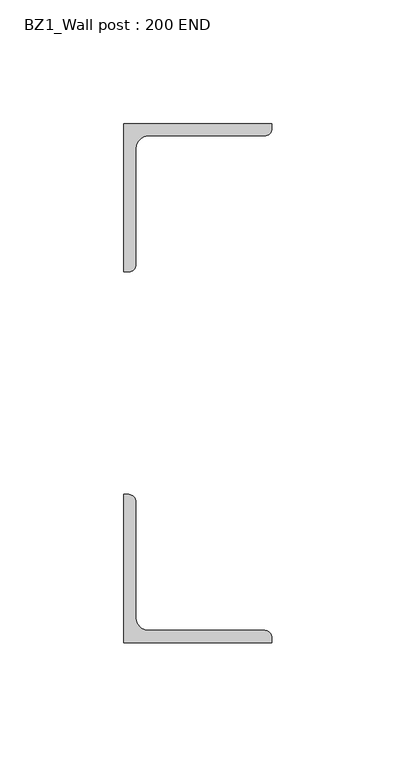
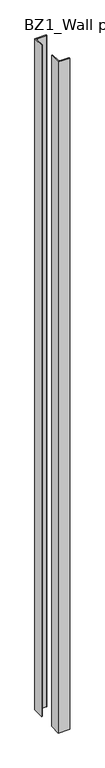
"""IFC4 building model written with IfcOpenShell, lengths in millimetres: beam geometry, BZ1_Wall post : 200 END."""

import ifcopenshell
import ifcopenshell.guid

model = None  # the IFC model being written
_history = None  # IfcOwnerHistory: only IFC2X3 demands one
_inside = {}  # id of a spatial element -> (the spatial element, [elements in it])
_under = {}  # id of a project, library or spatial element -> (it, [spatial elements below it])
_declared = {}  # id of a project -> (the project, [libraries it declares])
_typed = {}  # id of a type object -> (the type object, [elements of that type])
_made_of = {}  # id of a material, layer set ... -> (it, [elements and type objects made of it])


def new_model(schema):
    """Start an empty IFC model of exactly this schema.

    Asked for "IFC4X3", IfcOpenShell would pick the latest addendum, in which some entities
    have other attributes; the version numbers below select the first issue.
    IFC2X3 requires an IfcOwnerHistory on every rooted entity: one is made here for all.
    """
    global model, _history
    if schema == "IFC4X3":
        model = ifcopenshell.file(schema_version=(4, 3, 0, 0))
    else:
        model = ifcopenshell.file(schema=schema)
    _inside.clear()
    _under.clear()
    _declared.clear()
    _typed.clear()
    _made_of.clear()
    _history = None
    if model.schema == "IFC2X3":
        org = make("IfcOrganization", Name="unknown")
        user = make(
            "IfcPersonAndOrganization",
            ThePerson=make("IfcPerson", FamilyName="unknown"),
            TheOrganization=org,
        )
        app = make(
            "IfcApplication",
            ApplicationDeveloper=org,
            Version="unknown",
            ApplicationFullName="unknown",
            ApplicationIdentifier="unknown",
        )
        _history = make(
            "IfcOwnerHistory",
            OwningUser=user,
            OwningApplication=app,
            ChangeAction="ADDED",
            CreationDate=0,
        )
    return model


def make(cls, **values):
    """One entity of the class cls with the attributes given. An attribute that is None is left unset."""
    return model.create_entity(
        cls, **{name: value for name, value in values.items() if value is not None}
    )


def rooted(cls, **values):
    """An entity with a GlobalId (a new one), such as an element, a storey or a relation."""
    return make(cls, GlobalId=ifcopenshell.guid.new(), OwnerHistory=_history, **values)


def si_unit(unit_type, name, prefix=None):
    """IfcSIUnit, for example si_unit("LENGTHUNIT", "METRE", prefix="MILLI")."""
    return make("IfcSIUnit", UnitType=unit_type, Prefix=prefix, Name=name)


def assignment(units):
    """IfcUnitAssignment: the units of a project."""
    return None if units is None else make("IfcUnitAssignment", Units=units)


def point(xyz):
    """IfcCartesianPoint."""
    return None if xyz is None else make("IfcCartesianPoint", Coordinates=xyz)


def direction(xyz):
    """IfcDirection."""
    return None if xyz is None else make("IfcDirection", DirectionRatios=xyz)


def frame(location, z_axis=None, x_axis=None):
    """IfcAxis2Placement3D, a coordinate frame: its origin and axes. An axis left out is left unset."""
    return make(
        "IfcAxis2Placement3D",
        Location=point(location),
        Axis=direction(z_axis),
        RefDirection=direction(x_axis),
    )


def frame_2d(location, x_axis=None):
    """IfcAxis2Placement2D, a coordinate frame in the plane: its origin and x axis."""
    return make(
        "IfcAxis2Placement2D", Location=point(location), RefDirection=direction(x_axis)
    )


def origin():
    """The frame at (0, 0, 0) with its axes left unset."""
    return frame((0.0, 0.0, 0.0))


def origin_with_axes():
    """The frame at (0, 0, 0) with the z axis (0, 0, 1) and the x axis (1, 0, 0) written out."""
    return frame((0.0, 0.0, 0.0), z_axis=(0.0, 0.0, 1.0), x_axis=(1.0, 0.0, 0.0))


def place(relative_to, where):
    """IfcLocalPlacement: puts the frame where relative to a parent placement (None: the world)."""
    return make(
        "IfcLocalPlacement", PlacementRelTo=relative_to, RelativePlacement=where
    )


def context(
    kind, dimensions, precision=None, world=None, true_north=None, identifier=None
):
    """IfcGeometricRepresentationContext, for example the 3D "Model" context."""
    return make(
        "IfcGeometricRepresentationContext",
        ContextIdentifier=identifier,
        ContextType=kind,
        CoordinateSpaceDimension=dimensions,
        Precision=precision,
        WorldCoordinateSystem=world,
        TrueNorth=true_north,
    )


def project(units=None, contexts=None):
    """IfcProject with its units and contexts."""
    return rooted(
        "IfcProject",
        Name="project",
        RepresentationContexts=contexts,
        UnitsInContext=assignment(units),
    )


def spatial(cls, under=None, at=None, **own):
    """A site, building, storey or space (cls), placed at a placement, below another one or the project."""
    s = rooted(cls, ObjectPlacement=at, **own)
    if under is not None:
        _under.setdefault(under.id(), (under, []))[1].append(s)
    return s


def polyline(points):
    """IfcPolyline through the points."""
    return make("IfcPolyline", Points=[point(p) for p in points])


def circle_curve(where, radius):
    """IfcCircle in the frame where."""
    return make("IfcCircle", Position=where, Radius=radius)


def trimmed(basis, trim1, trim2, sense, master):
    """IfcTrimmedCurve: the piece of a basis curve between two trims."""
    return make(
        "IfcTrimmedCurve",
        BasisCurve=basis,
        Trim1=trim1,
        Trim2=trim2,
        SenseAgreement=sense,
        MasterRepresentation=master,
    )


def segment(curve, same_sense, transition):
    """IfcCompositeCurveSegment."""
    return make(
        "IfcCompositeCurveSegment",
        Transition=transition,
        SameSense=same_sense,
        ParentCurve=curve,
    )


def composite_curve(segments, self_intersect=None):
    """IfcCompositeCurve: segments joined end to end."""
    return make("IfcCompositeCurve", Segments=segments, SelfIntersect=self_intersect)


def outline(outer, holes=None, kind="AREA"):
    """IfcArbitraryClosedProfileDef: a profile drawn as a closed curve; with holes, ...WithVoids."""
    if holes is None:
        return make("IfcArbitraryClosedProfileDef", ProfileType=kind, OuterCurve=outer)
    return make(
        "IfcArbitraryProfileDefWithVoids",
        ProfileType=kind,
        OuterCurve=outer,
        InnerCurves=holes,
    )


def extrude(swept, where, along, depth):
    """IfcExtrudedAreaSolid: the profile swept, set in the frame where, extruded along a direction by depth."""
    return make(
        "IfcExtrudedAreaSolid",
        SweptArea=swept,
        Position=where,
        ExtrudedDirection=direction(along),
        Depth=depth,
    )


def shape(context_of_items, identifier, shape_type, items):
    """IfcShapeRepresentation: the items that make up one representation, for example the "Body"."""
    return make(
        "IfcShapeRepresentation",
        ContextOfItems=context_of_items,
        RepresentationIdentifier=identifier,
        RepresentationType=shape_type,
        Items=items,
    )


def source(mapping_origin, context_of_items, identifier, shape_type, items):
    """IfcRepresentationMap: a shape defined once, which mapped items show again and again."""
    return make(
        "IfcRepresentationMap",
        MappingOrigin=mapping_origin,
        MappedRepresentation=shape(context_of_items, identifier, shape_type, items),
    )


def transform(
    local_origin,
    x_axis=None,
    y_axis=None,
    z_axis=None,
    scale=None,
    scale2=None,
    scale3=None,
    uniform=True,
):
    """IfcCartesianTransformationOperator3D, or its non-uniform kind. x_axis, y_axis, z_axis: its Axis1, 2, 3."""
    if uniform:
        return make(
            "IfcCartesianTransformationOperator3D",
            Axis1=direction(x_axis),
            Axis2=direction(y_axis),
            LocalOrigin=point(local_origin),
            Scale=scale,
            Axis3=direction(z_axis),
        )
    return make(
        "IfcCartesianTransformationOperator3DnonUniform",
        Axis1=direction(x_axis),
        Axis2=direction(y_axis),
        LocalOrigin=point(local_origin),
        Scale=scale,
        Axis3=direction(z_axis),
        Scale2=scale2,
        Scale3=scale3,
    )


def mapped(mapping_source, mapping_target):
    """IfcMappedItem: shows the shape of a source again, moved by a transform."""
    return make(
        "IfcMappedItem", MappingSource=mapping_source, MappingTarget=mapping_target
    )


def made_of(thing, what):
    """Note that an element or type object is made of a material, layer set ...; save() writes the relation."""
    if what is not None:
        _made_of.setdefault(what.id(), (what, []))[1].append(thing)
    return thing


def element(
    cls,
    number,
    at=None,
    inside=None,
    cuts=None,
    type_object=None,
    material=None,
    context=None,
    identifier="Body",
    shape_type=None,
    held_by="IfcProductDefinitionShape",
    body=None,
    shapes=None,
    **own,
):
    """One element of the class cls, such as IfcWall. Its Tag is "e" and its number.

    at: its placement. inside: the storey or other place that contains it. cuts: it is an
    opening in that element (IfcRelVoidsElement). A single representation is given by context,
    identifier, shape_type and body (its items); several are given by shapes. held_by: the class
    of the entity that holds the representations. save() writes the other relations.
    """
    e = rooted(cls, Tag="e%d" % number, ObjectPlacement=at, **own)
    if body is not None:
        shapes = [shape(context, identifier, shape_type, body)]
    if shapes is not None:
        e.Representation = make(held_by, Representations=shapes)
    if inside is not None:
        _inside.setdefault(inside.id(), (inside, []))[1].append(e)
    if cuts is not None:
        rooted(
            "IfcRelVoidsElement", RelatingBuildingElement=cuts, RelatedOpeningElement=e
        )
    if type_object is not None:
        _typed.setdefault(type_object.id(), (type_object, []))[1].append(e)
    return made_of(e, material)


def aggregate(whole, parts):
    """IfcRelAggregates: a whole, such as a stair, and the parts it consists of."""
    return rooted("IfcRelAggregates", RelatingObject=whole, RelatedObjects=parts)


def save(model, path):
    """Write the relations noted so far, then the file.

    IfcRelAggregates (storeys below a building ...), IfcRelContainedInSpatialStructure (elements
    in a storey), IfcRelDefinesByType, IfcRelAssociatesMaterial and IfcRelDeclares: one each for
    every whole, place, type object, material and project.
    """
    for whole, parts in _under.values():
        aggregate(whole, parts)
    for where, things in _inside.values():
        rooted(
            "IfcRelContainedInSpatialStructure",
            RelatedElements=things,
            RelatingStructure=where,
        )
    for kind, things in _typed.values():
        rooted("IfcRelDefinesByType", RelatedObjects=things, RelatingType=kind)
    for what, things in _made_of.values():
        rooted("IfcRelAssociatesMaterial", RelatedObjects=things, RelatingMaterial=what)
    for by, libraries in _declared.values():
        rooted("IfcRelDeclares", RelatingContext=by, RelatedDefinitions=libraries)
    model.write(path)


def bz1_wall_post_200_end_863f2b4e(model_context):
    return source(origin(), model_context, "Body", "SweptSolid", [
        extrude(outline(composite_curve([segment(polyline([(0.0, 45.0), (0.0, 105.0), (60.0, 105.0), (60.0, 103.0)]), True, "CONTINUOUS"), segment(trimmed(circle_curve(frame_2d((57.0, 103.0)), 3.0), [point((60.0, 103.0))], [point((57.0, 100.0))], False, "CARTESIAN"), True, "CONTINUOUS"), segment(polyline([(57.0, 100.0), (10.0, 100.0)]), True, "CONTINUOUS"), segment(trimmed(circle_curve(frame_2d((10.0, 95.0)), 5.0), [point((10.0, 100.0))], [point((5.0, 95.0))], True, "CARTESIAN"), True, "CONTINUOUS"), segment(polyline([(5.0, 95.0), (5.0, 48.0)]), True, "CONTINUOUS"), segment(trimmed(circle_curve(frame_2d((2.0, 48.0)), 3.0), [point((5.0, 48.0))], [point((2.0, 45.0))], False, "CARTESIAN"), True, "CONTINUOUS"), segment(polyline([(2.0, 45.0), (0.0, 45.0)]), True, "CONTINUOUS")], self_intersect=False)), origin_with_axes(), (0.0, 0.0, 1.0), 3700.0),
        extrude(outline(composite_curve([segment(polyline([(0.0, -45.0), (2.0, -45.0)]), True, "CONTINUOUS"), segment(trimmed(circle_curve(frame_2d((2.0, -48.0)), 3.0), [point((2.0, -45.0))], [point((5.0, -48.0))], False, "CARTESIAN"), True, "CONTINUOUS"), segment(polyline([(5.0, -48.0), (5.0, -95.0)]), True, "CONTINUOUS"), segment(trimmed(circle_curve(frame_2d((10.0, -95.0)), 5.0), [point((5.0, -95.0))], [point((10.0, -100.0))], True, "CARTESIAN"), True, "CONTINUOUS"), segment(polyline([(10.0, -100.0), (57.0, -100.0)]), True, "CONTINUOUS"), segment(trimmed(circle_curve(frame_2d((57.0, -103.0)), 3.0), [point((57.0, -100.0))], [point((60.0, -103.0))], False, "CARTESIAN"), True, "CONTINUOUS"), segment(polyline([(60.0, -103.0), (60.0, -105.0), (0.0, -105.0), (0.0, -45.0)]), True, "CONTINUOUS")], self_intersect=False)), origin_with_axes(), (0.0, 0.0, 1.0), 3700.0),
    ])


if __name__ == "__main__":
    model = new_model("IFC4")
    model_context = context("Model", 3, world=origin())
    ifc_project = project(units=[si_unit("LENGTHUNIT", "METRE", prefix="MILLI")], contexts=[model_context])
    site = spatial("IfcSite", under=ifc_project)
    building = spatial("IfcBuilding", under=site)
    placement = place(None, origin())
    bz1_wall_post_200_end_shape = bz1_wall_post_200_end_863f2b4e(model_context)
    element("IfcBeam", 1, ObjectType="BZ1_Wall post : 200 END", at=placement, inside=building, context=model_context, shape_type="MappedRepresentation", body=[
        mapped(bz1_wall_post_200_end_shape, transform((0.0, 0.0, 0.0), x_axis=(1.0, 0.0, 0.0), y_axis=(0.0, 1.0, 0.0), z_axis=(0.0, 0.0, 1.0))),
    ])
    save(model, "model.ifc")
